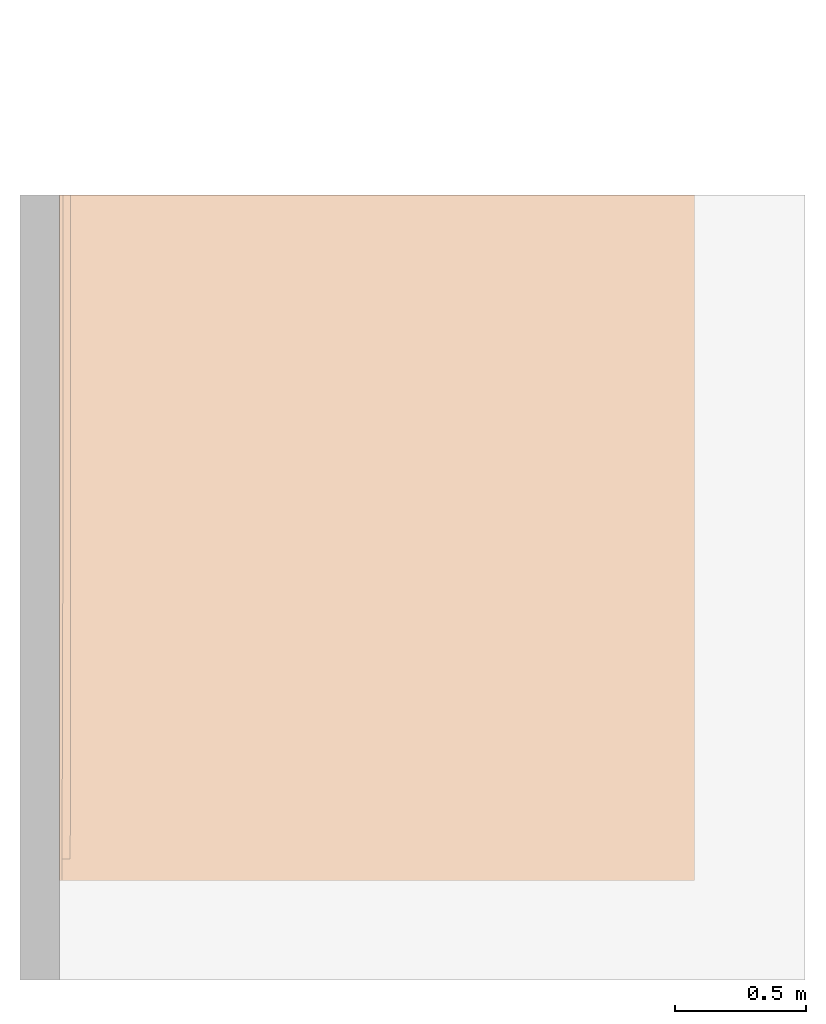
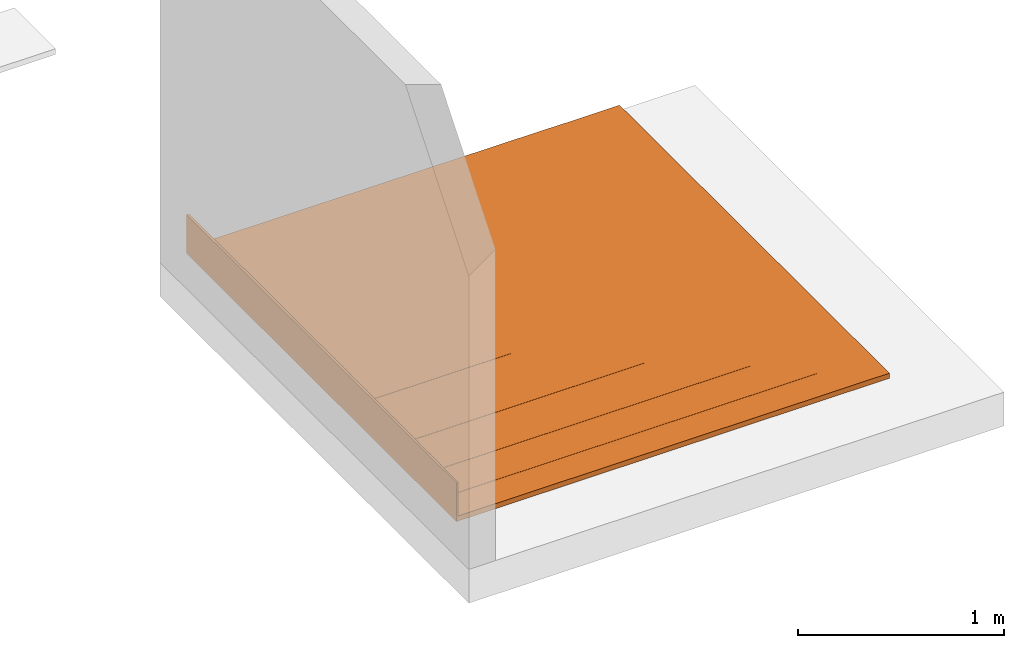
# One storey, part 2 of 2: 1 proxy.
"""IFC2X3 building model written with IfcOpenShell, lengths in metres."""

from ifc_helpers import new_model, entity, si_unit, converted_unit, derived_unit, direction, frame, origin, origin_2d_with_axis, place, context, subcontext, project, spatial, polyline, rectangle, outline, extrude, source, transform, mapped, material, material_list, type_object, type_shapes, element, save


model = new_model("IFC2X3")

# Units and contexts
model_context = context("Model", 3, precision=1e-05, world=origin(), true_north=direction((6.123031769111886e-17, 1.0)))
body_context = subcontext(model_context, "Body", "Model", "MODEL_VIEW")
ifc_project = project(units=[si_unit("LENGTHUNIT", "METRE"), si_unit("AREAUNIT", "SQUARE_METRE"), si_unit("VOLUMEUNIT", "CUBIC_METRE"), converted_unit("PLANEANGLEUNIT", "DEGREE", entity("IfcRatioMeasure", 0.017453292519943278), si_unit("PLANEANGLEUNIT", "RADIAN"), dimensions=[0, 0, 0, 0, 0, 0, 0]), si_unit("MASSUNIT", "GRAM", prefix="KILO"), derived_unit("MASSDENSITYUNIT", [(si_unit("MASSUNIT", "GRAM", prefix="KILO"), 1), (si_unit("LENGTHUNIT", "METRE"), -3)]), derived_unit("IONCONCENTRATIONUNIT", [(si_unit("MASSUNIT", "GRAM", prefix="KILO"), 1), (si_unit("LENGTHUNIT", "METRE"), -3)]), derived_unit("MOMENTOFINERTIAUNIT", [(si_unit("LENGTHUNIT", "METRE"), 4)]), si_unit("TIMEUNIT", "SECOND"), si_unit("FREQUENCYUNIT", "HERTZ"), si_unit("THERMODYNAMICTEMPERATUREUNIT", "DEGREE_CELSIUS"), derived_unit("THERMALTRANSMITTANCEUNIT", [(si_unit("MASSUNIT", "GRAM", prefix="KILO"), 1), (si_unit("THERMODYNAMICTEMPERATUREUNIT", "KELVIN"), -1), (si_unit("TIMEUNIT", "SECOND"), -3)]), derived_unit("THERMALCONDUCTANCEUNIT", [(si_unit("MASSUNIT", "GRAM", prefix="KILO"), 1), (si_unit("THERMODYNAMICTEMPERATUREUNIT", "KELVIN"), -1), (si_unit("TIMEUNIT", "SECOND"), -3), (si_unit("LENGTHUNIT", "METRE"), 1)]), derived_unit("VOLUMETRICFLOWRATEUNIT", [(si_unit("LENGTHUNIT", "METRE"), 3), (si_unit("TIMEUNIT", "SECOND"), -1)]), derived_unit("MASSFLOWRATEUNIT", [(si_unit("MASSUNIT", "GRAM", prefix="KILO"), 1), (si_unit("TIMEUNIT", "SECOND"), -1)]), derived_unit("ROTATIONALFREQUENCYUNIT", [(si_unit("TIMEUNIT", "SECOND"), -1)]), si_unit("ELECTRICCURRENTUNIT", "AMPERE"), si_unit("ELECTRICVOLTAGEUNIT", "VOLT"), si_unit("POWERUNIT", "WATT"), si_unit("FORCEUNIT", "NEWTON", prefix="KILO"), si_unit("ILLUMINANCEUNIT", "LUX"), si_unit("LUMINOUSFLUXUNIT", "LUMEN"), si_unit("LUMINOUSINTENSITYUNIT", "CANDELA"), derived_unit("USERDEFINED", [(si_unit("MASSUNIT", "GRAM", prefix="KILO"), -1), (si_unit("LENGTHUNIT", "METRE"), -2), (si_unit("TIMEUNIT", "SECOND"), 3), (si_unit("LUMINOUSFLUXUNIT", "LUMEN"), 1)]), derived_unit("USERDEFINED", [(si_unit("MASSUNIT", "GRAM", prefix="KILO"), 1), (si_unit("TIMEUNIT", "SECOND"), -3), (si_unit("LENGTHUNIT", "METRE"), 3), (si_unit("ELECTRICCURRENTUNIT", "AMPERE"), -2)]), derived_unit("SOUNDPOWERUNIT", [(si_unit("MASSUNIT", "GRAM", prefix="KILO"), 1), (si_unit("TIMEUNIT", "SECOND"), -3), (si_unit("LENGTHUNIT", "METRE"), 2)]), derived_unit("SOUNDPRESSUREUNIT", [(si_unit("MASSUNIT", "GRAM", prefix="KILO"), 1), (si_unit("LENGTHUNIT", "METRE"), -1), (si_unit("TIMEUNIT", "SECOND"), -2)]), derived_unit("LINEARVELOCITYUNIT", [(si_unit("LENGTHUNIT", "METRE"), 1), (si_unit("TIMEUNIT", "SECOND"), -1)]), si_unit("PRESSUREUNIT", "PASCAL"), derived_unit("USERDEFINED", [(si_unit("MASSUNIT", "GRAM", prefix="KILO"), 1), (si_unit("LENGTHUNIT", "METRE"), -2), (si_unit("TIMEUNIT", "SECOND"), -2)]), derived_unit("LINEARFORCEUNIT", [(si_unit("MASSUNIT", "GRAM", prefix="KILO"), 1), (si_unit("TIMEUNIT", "SECOND"), -2)]), derived_unit("PLANARFORCEUNIT", [(si_unit("MASSUNIT", "GRAM", prefix="KILO"), 1), (si_unit("LENGTHUNIT", "METRE"), -1), (si_unit("TIMEUNIT", "SECOND"), -2)]), derived_unit("SPECIFICHEATCAPACITYUNIT", [(si_unit("THERMODYNAMICTEMPERATUREUNIT", "KELVIN"), -1), (si_unit("LENGTHUNIT", "METRE"), 2), (si_unit("TIMEUNIT", "SECOND"), -2)]), derived_unit("HEATINGVALUEUNIT", [(si_unit("LENGTHUNIT", "METRE"), 2), (si_unit("TIMEUNIT", "SECOND"), -2)]), derived_unit("VAPORPERMEABILITYUNIT", [(si_unit("LENGTHUNIT", "METRE"), -1), (si_unit("TIMEUNIT", "SECOND"), 1)]), derived_unit("DYNAMICVISCOSITYUNIT", [(si_unit("MASSUNIT", "GRAM", prefix="KILO"), 1), (si_unit("TIMEUNIT", "SECOND"), -1), (si_unit("LENGTHUNIT", "METRE"), -1)]), derived_unit("THERMALEXPANSIONCOEFFICIENTUNIT", [(si_unit("THERMODYNAMICTEMPERATUREUNIT", "KELVIN"), -1)]), derived_unit("MODULUSOFELASTICITYUNIT", [(si_unit("MASSUNIT", "GRAM", prefix="KILO"), 1), (si_unit("LENGTHUNIT", "METRE"), -1), (si_unit("TIMEUNIT", "SECOND"), -2)]), derived_unit("ISOTHERMALMOISTURECAPACITYUNIT", [(si_unit("LENGTHUNIT", "METRE"), 3), (si_unit("MASSUNIT", "GRAM", prefix="KILO"), -1)]), derived_unit("MOISTUREDIFFUSIVITYUNIT", [(si_unit("TIMEUNIT", "SECOND"), -1), (si_unit("LENGTHUNIT", "METRE"), 2)])], contexts=[model_context])

# Site, building, storey
site_placement = place(None, origin())
site = spatial("IfcSite", under=ifc_project, at=site_placement, Name="Default", CompositionType="ELEMENT")
building_placement = place(site_placement, origin())
building = spatial("IfcBuilding", under=site, at=building_placement, CompositionType="ELEMENT")
storey_placement = place(building_placement, frame((0.0, 0.0, -0.0025237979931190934)))
storey = spatial("IfcBuildingStorey", under=building, at=storey_placement, Name="ARQ Térreo", CompositionType="ELEMENT", Elevation=-0.0025237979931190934)

# Proxy
ifc_material_1 = material(Name="#argamassa")
ifc_material_2 = material(Name="#Vulkem 346")
ifc_material_3 = material(Name="#Vulkem 345")
ifc_material_4 = material(Name="#Vulkem 350NF")
ifc_material_5 = material(Name="#Selante")
ifc_material_6 = material(Name="#Vulkem 171 Primer")
ifc_material_list = material_list([ifc_material_1, ifc_material_2, ifc_material_3, ifc_material_4, ifc_material_5, ifc_material_6])
building_element_proxy_type = type_object("IfcBuildingElementProxyType", Name="IMPER:IMPER", PredefinedType="NOTDEFINED", material=ifc_material_list)
shared_shape = source(origin(), body_context, "Body", "SweptSolid", [
    extrude(rectangle(XDim=2.62, YDim=0.010000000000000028, at=origin_2d_with_axis()), frame((-0.3469704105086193, -1.1641299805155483, -0.0025237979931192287), z_axis=(0.0, 0.0, 1.0), x_axis=(0.0, -1.0, 0.0)), (0.0, 0.0, 1.0), 0.22999999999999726),
    extrude(outline(polyline([(-0.02686979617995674, -0.23343740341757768), (0.1398875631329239, -0.23343740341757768), (0.1398875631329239, -0.2324374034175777), (-0.026455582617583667, -0.2324374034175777), (-0.056112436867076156, -0.20278054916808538), (-0.05611243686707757, 0.6688624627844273), (-0.05711243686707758, 0.6688624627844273), (-0.05711243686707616, -0.20319476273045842), (-0.02686979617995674, -0.23343740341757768)])), frame((-0.1055330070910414, -1.4152413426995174, 0.0875886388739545), z_axis=(0.0, 1.0, 0.0), x_axis=(0.0, 0.0, 1.0)), (0.0, 0.0, 1.0), 1.5611113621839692),
    extrude(outline(polyline([(-0.026680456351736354, -0.36378191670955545), (0.14049111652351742, -0.36378191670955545), (0.14049111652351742, -0.3627819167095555), (-0.02626624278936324, -0.3627819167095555), (-0.05650888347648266, -0.33253927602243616), (-0.056508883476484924, 1.0593102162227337), (-0.05750888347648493, 1.0593102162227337), (-0.05750888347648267, -0.33295348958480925), (-0.026680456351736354, -0.36378191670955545)])), frame((0.023811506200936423, -1.8083727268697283, 0.08698508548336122), z_axis=(0.0, 1.0, 0.0), x_axis=(0.0, 0.0, 1.0)), (0.0, 0.0, 1.0), 1.95424274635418),
    extrude(outline(polyline([(0.05690533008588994, -1.386094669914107), (0.05790533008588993, -1.386094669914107), (0.05790533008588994, 0.44149111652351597), (0.026491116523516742, 0.4729053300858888), (-0.1410946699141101, 0.4729053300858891), (-0.1410946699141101, 0.47190533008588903), (0.026076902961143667, 0.47190533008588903), (0.05690533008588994, 0.4410769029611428), (0.05690533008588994, -1.386094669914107)])), frame((0.13193491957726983, -2.0860946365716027, 0.08638153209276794), z_axis=(0.0, 1.0, 0.0), x_axis=(0.0, 0.0, -1.0)), (0.0, 0.0, 1.0), 2.2319646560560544),
    extrude(outline(polyline([(-0.010000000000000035, -0.01000000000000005), (0.020000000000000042, -0.01000000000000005), (-0.01, 0.0199999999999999), (-0.010000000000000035, -0.01000000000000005)])), frame((-0.330970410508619, -2.3911469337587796, 0.03847620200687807), z_axis=(0.0, 1.0, 0.0), x_axis=(0.0, 0.0, 1.0)), (0.0, 0.0, 1.0), 2.5370169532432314),
    extrude(outline(polyline([(-1.5034004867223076, -0.062059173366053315), (0.6082430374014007, -0.062059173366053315), (0.608243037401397, 0.13794082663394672), (0.6072430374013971, 0.1379408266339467), (0.6072430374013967, -0.02964495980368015), (0.5758288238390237, -0.061059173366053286), (-1.5034004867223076, -0.06105917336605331), (-1.5034004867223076, -0.062059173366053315)]), holes=[polyline([(0.6072430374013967, -0.03105917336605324), (0.6072430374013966, -0.06105917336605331), (0.5772430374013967, -0.06105917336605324), (0.6072430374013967, -0.03105917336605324)])]), frame((0.2662726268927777, -2.301492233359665, 0.08953537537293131), z_axis=(0.0, 1.0, 0.0), x_axis=(-1.0, 0.0, 0.0)), (0.0, 0.0, 1.0), 2.447362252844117),
    extrude(rectangle(XDim=2.62, YDim=2.417218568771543, at=origin_2d_with_axis()), frame((0.866638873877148, -1.1641299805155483, -0.002523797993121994), z_axis=(0.0, 0.0, 1.0), x_axis=(0.0, -1.0, 0.0)), (0.0, 0.0, 1.0), 0.03),
])
type_shapes(building_element_proxy_type, [shared_shape])
proxy_placement = place(storey_placement, frame((0.0, 0.0, 0.0025237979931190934)))
element("IfcBuildingElementProxy", 1, at=proxy_placement, inside=storey, type_object=building_element_proxy_type, material=ifc_material_list, Name="IMPER:IMPER:IMPER : IMPER:IMPER", ObjectType="IMPER:IMPER:IMPER : IMPER:IMPER", context=body_context, shape_type="MappedRepresentation", body=[
    mapped(shared_shape, transform((0.0, 0.0, 0.0), scale=1.0)),
])

save(model, "model.ifc")
